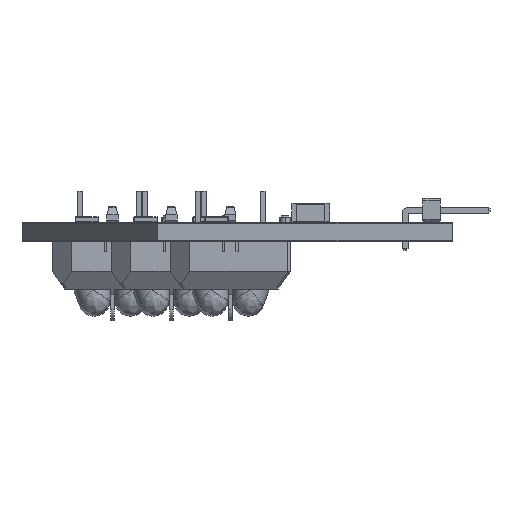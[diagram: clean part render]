
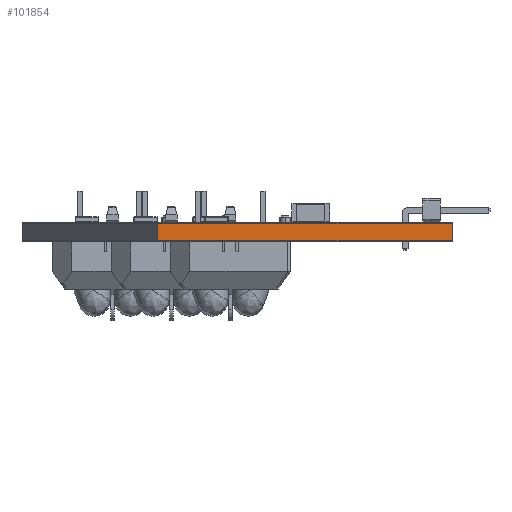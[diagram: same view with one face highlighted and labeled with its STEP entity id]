
A CAD part, left-side view. The second image highlights one B-rep face of the part: STEP entity #101854.
In plain terms, the highlighted planar face has unit normal (-1, 0, 0).
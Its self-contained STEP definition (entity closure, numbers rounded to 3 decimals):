
#100548 = VERTEX_POINT('',#100549);
#100549 = CARTESIAN_POINT('',(116.,-95.,0.));
#100555 = EDGE_CURVE('',#100556,#100548,#100558,.T.);
#100556 = VERTEX_POINT('',#100557);
#100557 = CARTESIAN_POINT('',(116.,-120.,0.));
#100558 = LINE('',#100559,#100560);
#100559 = CARTESIAN_POINT('',(116.,-120.,0.));
#100560 = VECTOR('',#100561,1.);
#100561 = DIRECTION('',(0.,1.,0.));
#101183 = VERTEX_POINT('',#101184);
#101184 = CARTESIAN_POINT('',(116.,-95.,1.51));
#101190 = EDGE_CURVE('',#101191,#101183,#101193,.T.);
#101191 = VERTEX_POINT('',#101192);
#101192 = CARTESIAN_POINT('',(116.,-120.,1.51));
#101193 = LINE('',#101194,#101195);
#101194 = CARTESIAN_POINT('',(116.,-120.,1.51));
#101195 = VECTOR('',#101196,1.);
#101196 = DIRECTION('',(0.,1.,0.));
#101826 = EDGE_CURVE('',#100556,#101191,#101827,.T.);
#101827 = LINE('',#101828,#101829);
#101828 = CARTESIAN_POINT('',(116.,-120.,0.));
#101829 = VECTOR('',#101830,1.);
#101830 = DIRECTION('',(0.,0.,1.));
#101841 = EDGE_CURVE('',#100548,#101183,#101842,.T.);
#101842 = LINE('',#101843,#101844);
#101843 = CARTESIAN_POINT('',(116.,-95.,0.));
#101844 = VECTOR('',#101845,1.);
#101845 = DIRECTION('',(0.,0.,1.));
#101854 = ADVANCED_FACE('',(#101855),#101861,.T.);
#101855 = FACE_BOUND('',#101856,.T.);
#101856 = EDGE_LOOP('',(#101857,#101858,#101859,#101860));
#101857 = ORIENTED_EDGE('',*,*,#101826,.T.);
#101858 = ORIENTED_EDGE('',*,*,#101190,.T.);
#101859 = ORIENTED_EDGE('',*,*,#101841,.F.);
#101860 = ORIENTED_EDGE('',*,*,#100555,.F.);
#101861 = PLANE('',#101862);
#101862 = AXIS2_PLACEMENT_3D('',#101863,#101864,#101865);
#101863 = CARTESIAN_POINT('',(116.,-120.,0.));
#101864 = DIRECTION('',(-1.,0.,0.));
#101865 = DIRECTION('',(0.,1.,0.));
